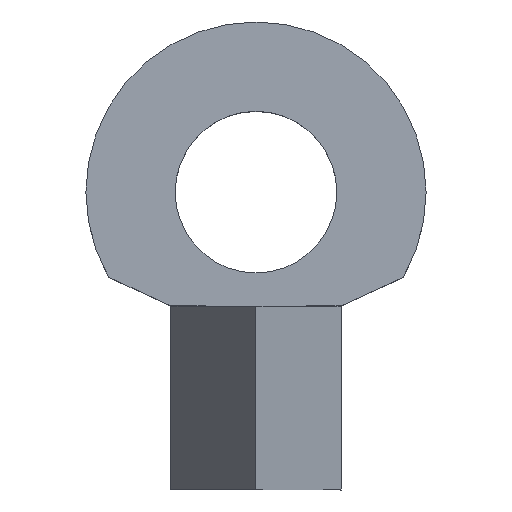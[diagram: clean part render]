
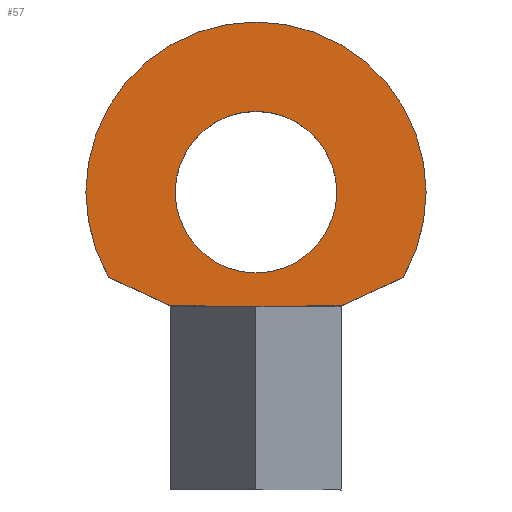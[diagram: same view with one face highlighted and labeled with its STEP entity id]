
A CAD part, top view. The second image highlights one B-rep face of the part: STEP entity #57.
In plain terms, the highlighted planar face has unit normal (0, 0, 1).
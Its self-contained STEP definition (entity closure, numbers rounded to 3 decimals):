
#57=ADVANCED_FACE('',(#93,#94),#95,.T.);
#93=FACE_BOUND('',#152,.T.);
#94=FACE_OUTER_BOUND('',#153,.T.);
#95=PLANE('',#154);
#152=EDGE_LOOP('',(#240,#241));
#153=EDGE_LOOP('',(#242,#243,#244,#245,#246,#247,#248,#249));
#154=AXIS2_PLACEMENT_3D('',#250,#251,#252);
#240=ORIENTED_EDGE('',*,*,#421,.T.);
#241=ORIENTED_EDGE('',*,*,#434,.T.);
#242=ORIENTED_EDGE('',*,*,#431,.T.);
#243=ORIENTED_EDGE('',*,*,#435,.F.);
#244=ORIENTED_EDGE('',*,*,#436,.F.);
#245=ORIENTED_EDGE('',*,*,#437,.F.);
#246=ORIENTED_EDGE('',*,*,#417,.F.);
#247=ORIENTED_EDGE('',*,*,#438,.F.);
#248=ORIENTED_EDGE('',*,*,#439,.F.);
#249=ORIENTED_EDGE('',*,*,#440,.T.);
#250=CARTESIAN_POINT('',(189.996,-1.77,22.));
#251=DIRECTION('',(0.,0.,1.0));
#252=DIRECTION('',(0.,1.0,0.));
#417=EDGE_CURVE('',#484,#480,#486,.T.);
#421=EDGE_CURVE('',#488,#492,#494,.T.);
#431=EDGE_CURVE('',#501,#510,#512,.T.);
#434=EDGE_CURVE('',#492,#488,#516,.T.);
#435=EDGE_CURVE('',#517,#510,#518,.T.);
#436=EDGE_CURVE('',#519,#517,#520,.T.);
#437=EDGE_CURVE('',#480,#519,#521,.T.);
#438=EDGE_CURVE('',#522,#484,#523,.T.);
#439=EDGE_CURVE('',#524,#522,#525,.T.);
#440=EDGE_CURVE('',#524,#501,#526,.T.);
#480=VERTEX_POINT('',#584);
#484=VERTEX_POINT('',#589);
#486=CIRCLE('',#592,2.);
#488=VERTEX_POINT('',#594);
#492=VERTEX_POINT('',#599);
#494=CIRCLE('',#602,0.95);
#501=VERTEX_POINT('',#612);
#510=VERTEX_POINT('',#626);
#512=LINE('',#629,#630);
#516=CIRCLE('',#636,0.95);
#517=VERTEX_POINT('',#637);
#518=LINE('',#638,#639);
#519=VERTEX_POINT('',#640);
#520=LINE('',#641,#642);
#521=CIRCLE('',#643,2.);
#522=VERTEX_POINT('',#644);
#523=LINE('',#645,#646);
#524=VERTEX_POINT('',#647);
#525=LINE('',#648,#649);
#526=LINE('',#650,#651);
#584=CARTESIAN_POINT('',(191.,1.57,22.));
#589=CARTESIAN_POINT('',(189.268,-1.43,22.));
#592=AXIS2_PLACEMENT_3D('',#749,#750,#751);
#594=CARTESIAN_POINT('',(191.,0.52,22.));
#599=CARTESIAN_POINT('',(191.,-1.38,22.));
#602=AXIS2_PLACEMENT_3D('',#757,#758,#759);
#612=CARTESIAN_POINT('',(190.998,-1.77,22.));
#626=CARTESIAN_POINT('',(191.3,-1.77,22.));
#629=CARTESIAN_POINT('',(190.835,-1.77,22.));
#630=VECTOR('',#769,1.0);
#636=AXIS2_PLACEMENT_3D('',#772,#773,#774);
#637=CARTESIAN_POINT('',(192.,-1.768,22.));
#638=CARTESIAN_POINT('',(191.3,-1.77,22.));
#639=VECTOR('',#775,1.);
#640=CARTESIAN_POINT('',(192.732,-1.43,22.));
#641=CARTESIAN_POINT('',(192.,-1.768,22.));
#642=VECTOR('',#776,1.0);
#643=AXIS2_PLACEMENT_3D('',#777,#778,#779);
#644=CARTESIAN_POINT('',(189.996,-1.768,22.));
#645=CARTESIAN_POINT('',(189.268,-1.43,22.));
#646=VECTOR('',#780,1.);
#647=CARTESIAN_POINT('',(190.7,-1.77,22.));
#648=CARTESIAN_POINT('',(189.996,-1.768,22.));
#649=VECTOR('',#781,1.0);
#650=CARTESIAN_POINT('',(190.159,-1.77,22.));
#651=VECTOR('',#782,1.0);
#749=CARTESIAN_POINT('',(191.,-0.43,22.));
#750=DIRECTION('',(0.,0.,-1.0));
#751=DIRECTION('',(0.,1.0,0.));
#757=CARTESIAN_POINT('',(191.,-0.43,22.));
#758=DIRECTION('',(0.,0.,-1.0));
#759=DIRECTION('',(0.,-1.0,0.));
#769=DIRECTION('',(1.0,0.,0.));
#772=CARTESIAN_POINT('',(191.,-0.43,22.));
#773=DIRECTION('',(0.,0.,-1.0));
#774=DIRECTION('',(0.,-1.0,0.));
#775=DIRECTION('',(-1.,-0.003,0.));
#776=DIRECTION('',(-0.908,-0.419,0.));
#777=CARTESIAN_POINT('',(191.,-0.43,22.));
#778=DIRECTION('',(0.,0.,-1.0));
#779=DIRECTION('',(0.,1.0,0.));
#780=DIRECTION('',(-0.907,0.421,0.));
#781=DIRECTION('',(-1.,0.003,0.));
#782=DIRECTION('',(1.0,0.,0.));
